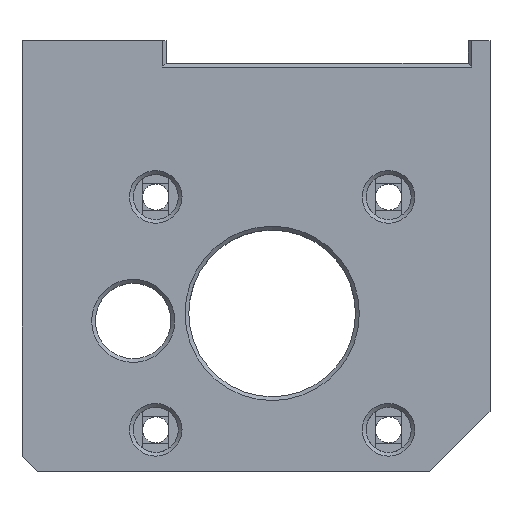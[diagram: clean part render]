
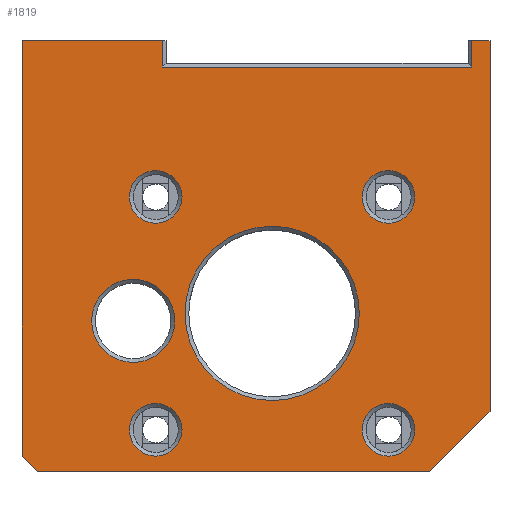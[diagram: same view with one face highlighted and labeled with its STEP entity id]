
A CAD part, top view. The second image highlights one B-rep face of the part: STEP entity #1819.
In plain terms, the highlighted planar face has unit normal (0, 0, 1).
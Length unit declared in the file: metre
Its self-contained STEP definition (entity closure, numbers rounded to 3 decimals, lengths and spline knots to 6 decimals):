
#133=LINE('',#2855,#299);
#155=LINE('',#2908,#321);
#161=LINE('',#2919,#327);
#164=LINE('',#2925,#330);
#167=LINE('',#2932,#333);
#180=LINE('',#2964,#346);
#186=LINE('',#3041,#352);
#187=LINE('',#3055,#353);
#188=LINE('',#3057,#354);
#189=LINE('',#3059,#355);
#299=VECTOR('',#2296,1.);
#321=VECTOR('',#2334,1.);
#327=VECTOR('',#2342,1.);
#330=VECTOR('',#2347,1.);
#333=VECTOR('',#2352,1.);
#346=VECTOR('',#2381,1.);
#352=VECTOR('',#2497,1.);
#353=VECTOR('',#2512,1.);
#354=VECTOR('',#2513,1.);
#355=VECTOR('',#2514,1.);
#430=PLANE('',#2001);
#499=CIRCLE('',#2002,0.0035);
#500=CIRCLE('',#2003,0.0035);
#501=CIRCLE('',#2004,0.0035);
#502=CIRCLE('',#2005,0.0116);
#503=CIRCLE('',#2006,0.0035);
#504=CIRCLE('',#2007,0.005525);
#952=ORIENTED_EDGE('',*,*,#1226,.T.);
#953=ORIENTED_EDGE('',*,*,#1227,.T.);
#954=ORIENTED_EDGE('',*,*,#1228,.T.);
#955=ORIENTED_EDGE('',*,*,#1229,.T.);
#956=ORIENTED_EDGE('',*,*,#1230,.T.);
#957=ORIENTED_EDGE('',*,*,#1231,.T.);
#958=ORIENTED_EDGE('',*,*,#1178,.T.);
#959=ORIENTED_EDGE('',*,*,#1232,.T.);
#960=ORIENTED_EDGE('',*,*,#1233,.T.);
#961=ORIENTED_EDGE('',*,*,#1234,.T.);
#962=ORIENTED_EDGE('',*,*,#1195,.T.);
#963=ORIENTED_EDGE('',*,*,#1141,.T.);
#964=ORIENTED_EDGE('',*,*,#1225,.T.);
#965=ORIENTED_EDGE('',*,*,#1166,.T.);
#966=ORIENTED_EDGE('',*,*,#1172,.T.);
#967=ORIENTED_EDGE('',*,*,#1175,.T.);
#1141=EDGE_CURVE('',#1342,#1341,#133,.T.);
#1166=EDGE_CURVE('',#1361,#1360,#155,.T.);
#1172=EDGE_CURVE('',#1360,#1364,#161,.T.);
#1175=EDGE_CURVE('',#1364,#1366,#164,.T.);
#1178=EDGE_CURVE('',#1366,#1369,#167,.T.);
#1195=EDGE_CURVE('',#1381,#1342,#180,.T.);
#1225=EDGE_CURVE('',#1341,#1361,#186,.F.);
#1226=EDGE_CURVE('',#1397,#1397,#499,.F.);
#1227=EDGE_CURVE('',#1398,#1398,#500,.F.);
#1228=EDGE_CURVE('',#1399,#1399,#501,.F.);
#1229=EDGE_CURVE('',#1400,#1400,#502,.F.);
#1230=EDGE_CURVE('',#1401,#1401,#503,.F.);
#1231=EDGE_CURVE('',#1402,#1402,#504,.F.);
#1232=EDGE_CURVE('',#1369,#1403,#187,.T.);
#1233=EDGE_CURVE('',#1403,#1404,#188,.T.);
#1234=EDGE_CURVE('',#1404,#1381,#189,.T.);
#1341=VERTEX_POINT('',#2854);
#1342=VERTEX_POINT('',#2856);
#1360=VERTEX_POINT('',#2907);
#1361=VERTEX_POINT('',#2909);
#1364=VERTEX_POINT('',#2918);
#1366=VERTEX_POINT('',#2924);
#1369=VERTEX_POINT('',#2931);
#1381=VERTEX_POINT('',#2965);
#1397=VERTEX_POINT('',#3044);
#1398=VERTEX_POINT('',#3046);
#1399=VERTEX_POINT('',#3048);
#1400=VERTEX_POINT('',#3050);
#1401=VERTEX_POINT('',#3052);
#1402=VERTEX_POINT('',#3054);
#1403=VERTEX_POINT('',#3056);
#1404=VERTEX_POINT('',#3058);
#1538=EDGE_LOOP('',(#952));
#1539=EDGE_LOOP('',(#953));
#1540=EDGE_LOOP('',(#954));
#1541=EDGE_LOOP('',(#955));
#1542=EDGE_LOOP('',(#956));
#1543=EDGE_LOOP('',(#957));
#1544=EDGE_LOOP('',(#958,#959,#960,#961,#962,#963,#964,#965,#966,#967));
#1688=FACE_BOUND('',#1538,.T.);
#1689=FACE_BOUND('',#1539,.T.);
#1690=FACE_BOUND('',#1540,.T.);
#1691=FACE_BOUND('',#1541,.T.);
#1692=FACE_BOUND('',#1542,.T.);
#1693=FACE_BOUND('',#1543,.T.);
#1694=FACE_BOUND('',#1544,.T.);
#1819=ADVANCED_FACE('',(#1688,#1689,#1690,#1691,#1692,#1693,#1694),#430,
 .T.);
#2001=AXIS2_PLACEMENT_3D('',#3042,#2498,#2499);
#2002=AXIS2_PLACEMENT_3D('',#3043,#2500,#2501);
#2003=AXIS2_PLACEMENT_3D('',#3045,#2502,#2503);
#2004=AXIS2_PLACEMENT_3D('',#3047,#2504,#2505);
#2005=AXIS2_PLACEMENT_3D('',#3049,#2506,#2507);
#2006=AXIS2_PLACEMENT_3D('',#3051,#2508,#2509);
#2007=AXIS2_PLACEMENT_3D('',#3053,#2510,#2511);
#2296=DIRECTION('',(0.,-1.,0.));
#2334=DIRECTION('',(1.,0.,0.));
#2342=DIRECTION('',(0.707,0.707,0.));
#2347=DIRECTION('',(0.,1.,0.));
#2352=DIRECTION('',(-1.,0.,0.));
#2381=DIRECTION('',(-1.,0.,0.));
#2497=DIRECTION('',(-0.707,0.707,0.));
#2498=DIRECTION('',(0.,0.,1.));
#2499=DIRECTION('',(1.,0.,0.));
#2500=DIRECTION('',(0.,0.,1.));
#2501=DIRECTION('',(1.,0.,0.));
#2502=DIRECTION('',(0.,0.,1.));
#2503=DIRECTION('',(1.,0.,0.));
#2504=DIRECTION('',(0.,0.,1.));
#2505=DIRECTION('',(1.,0.,0.));
#2506=DIRECTION('',(0.,0.,1.));
#2507=DIRECTION('',(1.,0.,0.));
#2508=DIRECTION('',(0.,0.,1.));
#2509=DIRECTION('',(1.,0.,0.));
#2510=DIRECTION('',(0.,0.,1.));
#2511=DIRECTION('',(1.,0.,0.));
#2512=DIRECTION('',(0.,-1.,0.));
#2513=DIRECTION('',(-1.,0.,0.));
#2514=DIRECTION('',(0.,1.,0.));
#2854=CARTESIAN_POINT('',(-0.072,-0.019,0.01));
#2855=CARTESIAN_POINT('',(-0.072,0.0363,0.01));
#2856=CARTESIAN_POINT('',(-0.072,0.0363,0.01));
#2907=CARTESIAN_POINT('',(-0.0177,-0.021,0.01));
#2908=CARTESIAN_POINT('',(-0.0387,-0.021,0.01));
#2909=CARTESIAN_POINT('',(-0.07,-0.021,0.01));
#2918=CARTESIAN_POINT('',(-0.0097,-0.013,0.01));
#2919=CARTESIAN_POINT('',(-0.0177,-0.021,0.01));
#2924=CARTESIAN_POINT('',(-0.0097,0.0363,0.01));
#2925=CARTESIAN_POINT('',(-0.0097,0.,0.01));
#2931=CARTESIAN_POINT('',(-0.0121,0.0363,0.01));
#2932=CARTESIAN_POINT('',(-0.0387,0.0363,0.01));
#2964=CARTESIAN_POINT('',(-0.0387,0.0363,0.01));
#2965=CARTESIAN_POINT('',(-0.0533,0.0363,0.01));
#3041=CARTESIAN_POINT('',(-0.06485,-0.02615,0.01));
#3042=CARTESIAN_POINT('',(-0.0387,0.,0.01));
#3043=CARTESIAN_POINT('',(-0.0542,-0.0155,0.01));
#3044=CARTESIAN_POINT('',(-0.0507,-0.0155,0.01));
#3045=CARTESIAN_POINT('',(-0.0232,-0.0155,0.01));
#3046=CARTESIAN_POINT('',(-0.0197,-0.0155,0.01));
#3047=CARTESIAN_POINT('',(-0.0232,0.0155,0.01));
#3048=CARTESIAN_POINT('',(-0.0197,0.0155,0.01));
#3049=CARTESIAN_POINT('',(-0.0387,0.,0.01));
#3050=CARTESIAN_POINT('',(-0.0271,0.,0.01));
#3051=CARTESIAN_POINT('',(-0.0542,0.0155,0.01));
#3052=CARTESIAN_POINT('',(-0.0507,0.0155,0.01));
#3053=CARTESIAN_POINT('',(-0.0572,-0.001,0.01));
#3054=CARTESIAN_POINT('',(-0.051675,-0.001,0.01));
#3055=CARTESIAN_POINT('',(-0.0121,0.0333,0.01));
#3056=CARTESIAN_POINT('',(-0.0121,0.0328,0.01));
#3057=CARTESIAN_POINT('',(-0.0528,0.0328,0.01));
#3058=CARTESIAN_POINT('',(-0.0533,0.0328,0.01));
#3059=CARTESIAN_POINT('',(-0.0533,0.0363,0.01));
